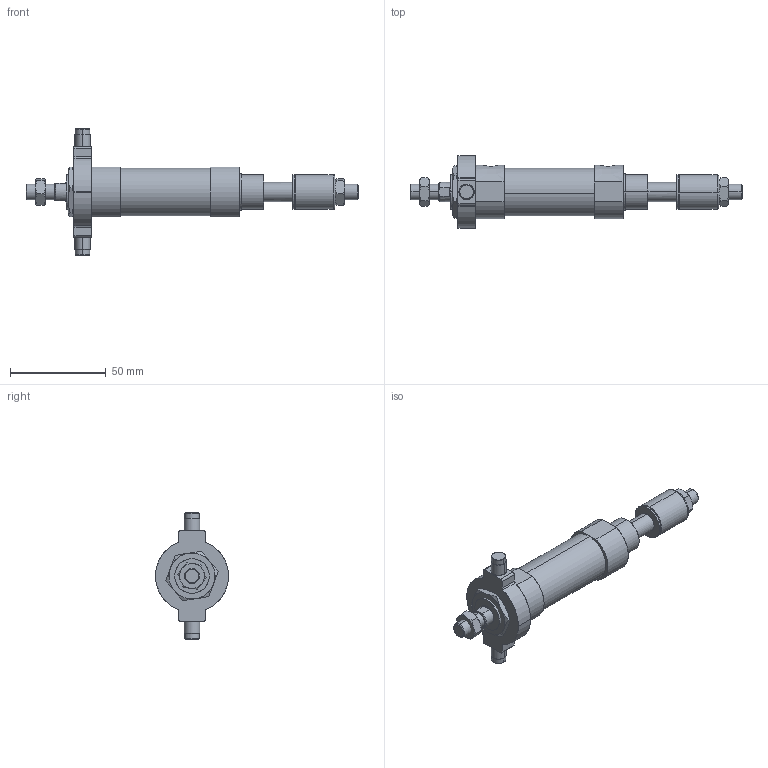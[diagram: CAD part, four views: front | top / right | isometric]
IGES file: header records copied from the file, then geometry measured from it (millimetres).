
Start section: SolidWorks IGES file using analytic representation for surfaces
Global section: file name: C:\Users\Toshiba\Desktop\JGA7-20-15-T.IGS; native system: SolidWorks 2014; preprocessor: SolidWorks 2014; author: Toshiba; date: 160420.092059; units: millimetre
Bounding box: 173 x 38 x 66 mm (x, y, z)
Surface area: 22349.4 mm2 (no closed solid volume)
Topology: 0 solids, 0 shells, 184 faces, 3140 edges, 3140 vertices
Faces by surface type: bspline 105, revolution 79
